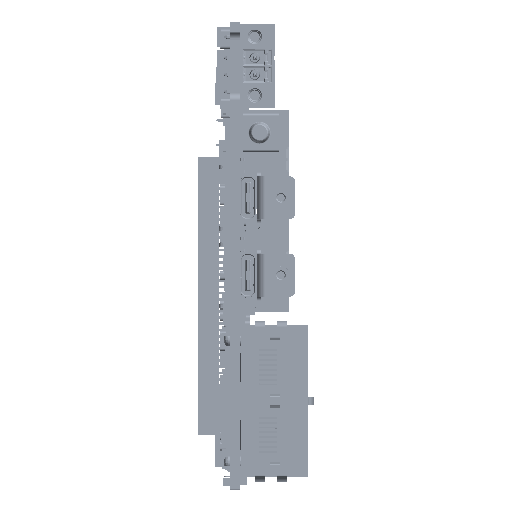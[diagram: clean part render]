
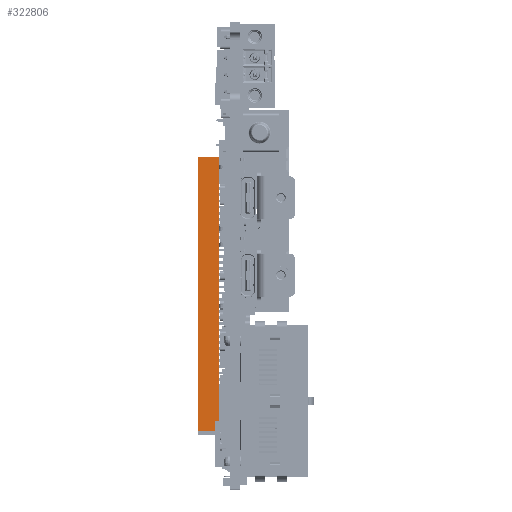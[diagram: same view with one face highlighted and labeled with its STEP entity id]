
A CAD part, top view. The second image highlights one B-rep face of the part: STEP entity #322806.
In plain terms, the highlighted planar face has unit normal (0, 0, 1).
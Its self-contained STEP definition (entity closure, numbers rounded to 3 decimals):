
#854=DIRECTION('',(0.,-1.,0.));
#855=VECTOR('',#854,1.27);
#856=CARTESIAN_POINT('',(0.,64.719,5.728));
#857=LINE('',#856,#855);
#56292=DIRECTION('',(1.,0.,0.));
#56293=VECTOR('',#56292,2.235);
#56294=CARTESIAN_POINT('',(-2.235,63.45,
5.728));
#56295=LINE('',#56294,#56293);
#56320=DIRECTION('',(-1.,0.,0.));
#56321=VECTOR('',#56320,2.235);
#56322=CARTESIAN_POINT('',(0.,64.719,5.728));
#56323=LINE('',#56322,#56321);
#56328=DIRECTION('',(0.,-1.,0.));
#56329=VECTOR('',#56328,53.238);
#56330=CARTESIAN_POINT('',(-2.235,63.45,
5.728));
#56331=LINE('',#56330,#56329);
#56332=DIRECTION('',(0.,-1.,0.));
#56333=VECTOR('',#56332,1.27);
#56334=CARTESIAN_POINT('',(-0.003,10.211,
5.73));
#56335=LINE('',#56334,#56333);
#56336=DIRECTION('',(-1.,0.,0.));
#56337=VECTOR('',#56336,6.553);
#56338=CARTESIAN_POINT('',(-0.003,8.941,
5.73));
#56339=LINE('',#56338,#56337);
#56340=DIRECTION('',(0.,-1.,0.));
#56341=VECTOR('',#56340,0.838);
#56342=CARTESIAN_POINT('',(-2.235,65.558,
5.728));
#56343=LINE('',#56342,#56341);
#57472=DIRECTION('',(-1.,0.,0.));
#57473=VECTOR('',#57472,2.235);
#57474=CARTESIAN_POINT('',(-0.003,10.211,
5.73));
#57475=LINE('',#57474,#57473);
#57531=DIRECTION('',(0.,-1.,0.));
#57532=VECTOR('',#57531,56.617);
#57533=CARTESIAN_POINT('',(-6.553,65.558,
5.728));
#57534=LINE('',#57533,#57532);
#58203=DIRECTION('',(-1.,0.,0.));
#58204=VECTOR('',#58203,4.318);
#58205=CARTESIAN_POINT('',(-2.235,65.558,
5.728));
#58206=LINE('',#58205,#58204);
#213059=CARTESIAN_POINT('',(-0.003,10.211,
5.73));
#213060=CARTESIAN_POINT('',(-0.003,8.941,
5.73));
#213061=VERTEX_POINT('',#213059);
#213062=VERTEX_POINT('',#213060);
#213085=CARTESIAN_POINT('',(-2.238,10.211,
5.73));
#213086=VERTEX_POINT('',#213085);
#213087=CARTESIAN_POINT('',(-2.235,63.45,
5.728));
#213088=VERTEX_POINT('',#213087);
#214449=CARTESIAN_POINT('',(-2.235,65.558,
5.728));
#214450=CARTESIAN_POINT('',(-2.235,64.72,
5.728));
#214451=VERTEX_POINT('',#214449);
#214452=VERTEX_POINT('',#214450);
#214477=CARTESIAN_POINT('',(-6.557,8.941,
5.73));
#214478=VERTEX_POINT('',#214477);
#214479=CARTESIAN_POINT('',(-6.553,65.558,
5.728));
#214480=VERTEX_POINT('',#214479);
#215965=CARTESIAN_POINT('',(0.,64.719,5.728));
#215966=CARTESIAN_POINT('',(0.,63.449,5.728));
#215967=VERTEX_POINT('',#215965);
#215968=VERTEX_POINT('',#215966);
#322782=CARTESIAN_POINT('',(-3.278,37.25,
5.729));
#322783=DIRECTION('',(0.,0.,
-1.));
#322784=DIRECTION('',(0.,-1.,0.));
#322785=AXIS2_PLACEMENT_3D('',#322782,#322783,#322784);
#322786=PLANE('',#322785);
#322787=ORIENTED_EDGE('',*,*,#261866,.T.);
#322788=ORIENTED_EDGE('',*,*,#322708,.F.);
#322790=ORIENTED_EDGE('',*,*,#322789,.T.);
#322792=ORIENTED_EDGE('',*,*,#322791,.F.);
#322794=ORIENTED_EDGE('',*,*,#322793,.T.);
#322796=ORIENTED_EDGE('',*,*,#322795,.T.);
#322798=ORIENTED_EDGE('',*,*,#322797,.F.);
#322800=ORIENTED_EDGE('',*,*,#322799,.F.);
#322802=ORIENTED_EDGE('',*,*,#322801,.T.);
#322803=ORIENTED_EDGE('',*,*,#322767,.F.);
#322804=EDGE_LOOP('',(#322787,#322788,#322790,#322792,#322794,#322796,#322798,
#322800,#322802,#322803));
#322805=FACE_OUTER_BOUND('',#322804,.F.);
#261866=EDGE_CURVE('',#215967,#215968,#857,.T.);
#322708=EDGE_CURVE('',#213088,#215968,#56295,.T.);
#322767=EDGE_CURVE('',#215967,#214452,#56323,.T.);
#322789=EDGE_CURVE('',#213088,#213086,#56331,.T.);
#322791=EDGE_CURVE('',#213061,#213086,#57475,.T.);
#322793=EDGE_CURVE('',#213061,#213062,#56335,.T.);
#322795=EDGE_CURVE('',#213062,#214478,#56339,.T.);
#322797=EDGE_CURVE('',#214480,#214478,#57534,.T.);
#322799=EDGE_CURVE('',#214451,#214480,#58206,.T.);
#322801=EDGE_CURVE('',#214451,#214452,#56343,.T.);
#322806=ADVANCED_FACE('',(#322805),#322786,.F.);
